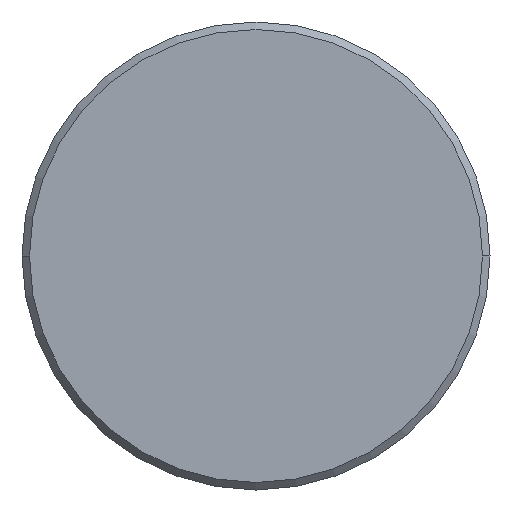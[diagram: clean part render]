
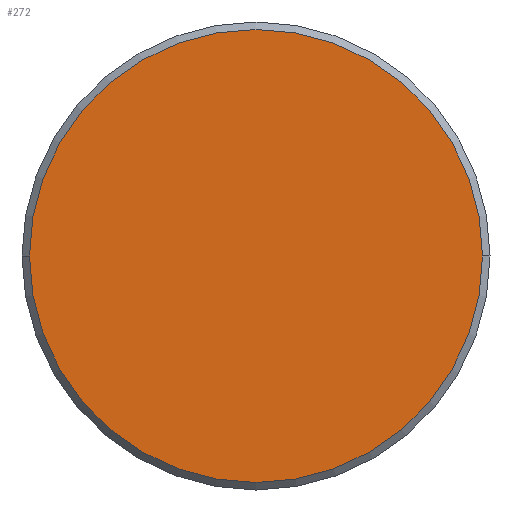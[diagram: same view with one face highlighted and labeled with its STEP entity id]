
A CAD part, left-side view. The second image highlights one B-rep face of the part: STEP entity #272.
In plain terms, the highlighted planar face has unit normal (-1, 0, 0).
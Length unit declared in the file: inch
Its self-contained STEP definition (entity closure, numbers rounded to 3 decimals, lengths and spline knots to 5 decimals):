
#21 = AXIS2_PLACEMENT_3D ( 'NONE', #78, #313, #220 ) ;
#28 = CIRCLE ( 'NONE', #21, 0.121 ) ;
#36 = DIRECTION ( 'NONE',  ( 0., -1., 0. ) ) ;
#45 = AXIS2_PLACEMENT_3D ( 'NONE', #302, #360, #36 ) ;
#46 = PLANE ( 'NONE',  #356 ) ;
#72 = DIRECTION ( 'NONE',  ( -1., 0., 0. ) ) ;
#78 = CARTESIAN_POINT ( 'NONE',  ( 0., 0., 0. ) ) ;
#79 = VERTEX_POINT ( 'NONE', #329 ) ;
#139 = EDGE_CURVE ( 'NONE', #79, #194, #273, .T. ) ;
#171 = EDGE_LOOP ( 'NONE', ( #256, #216 ) ) ;
#189 = DIRECTION ( 'NONE',  ( 0., -1., 0. ) ) ;
#193 = CARTESIAN_POINT ( 'NONE',  ( 0., 0.121, 0. ) ) ;
#194 = VERTEX_POINT ( 'NONE', #193 ) ;
#209 = EDGE_CURVE ( 'NONE', #194, #79, #28, .T. ) ;
#216 = ORIENTED_EDGE ( 'NONE', *, *, #139, .T. ) ;
#220 = DIRECTION ( 'NONE',  ( 0., -1., 0. ) ) ;
#248 = CARTESIAN_POINT ( 'NONE',  ( 0., 0., 0. ) ) ;
#256 = ORIENTED_EDGE ( 'NONE', *, *, #209, .T. ) ;
#268 = FACE_OUTER_BOUND ( 'NONE', #171, .T. ) ;
#272 = ADVANCED_FACE ( 'NONE', ( #268 ), #46, .T. ) ;
#273 = CIRCLE ( 'NONE', #45, 0.121 ) ;
#302 = CARTESIAN_POINT ( 'NONE',  ( 0., 0., 0. ) ) ;
#313 = DIRECTION ( 'NONE',  ( -1., 0., 0. ) ) ;
#329 = CARTESIAN_POINT ( 'NONE',  ( 0., -0.121, 0. ) ) ;
#356 = AXIS2_PLACEMENT_3D ( 'NONE', #248, #72, #189 ) ;
#360 = DIRECTION ( 'NONE',  ( -1., 0., 0. ) ) ;
